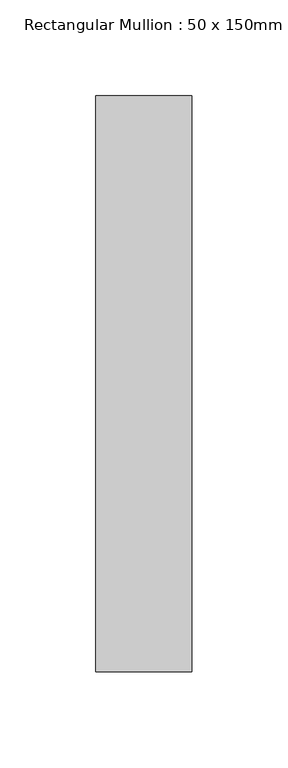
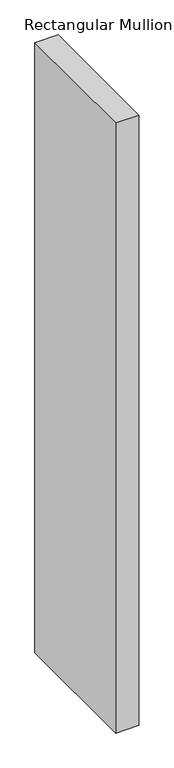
"""IFC4 building model written with IfcOpenShell, lengths in millimetres: member geometry, Rectangular Mullion : 50 x 150mm."""

from ifc_helpers import new_model, si_unit, frame, origin, place, context, project, spatial, polyline, outline, extrude, source, transform, mapped, element, save


def rectangular_mullion_50_x_150mm_15c94c80(model_context):
    return source(origin(), model_context, "Body", "SweptSolid", [
        extrude(outline(polyline([(0.0, 175.0), (0.0, -125.0), (-50.0, -125.0), (-50.0, 175.0), (0.0, 175.0)])), frame((0.0, 0.0, -1386.0217088), z_axis=(0.0, 0.0, 1.0), x_axis=(1.0, 0.0, 0.0)), (0.0, 0.0, 1.0), 1386.0217088),
    ])


if __name__ == "__main__":
    model = new_model("IFC4")
    model_context = context("Model", 3, world=origin())
    ifc_project = project(units=[si_unit("LENGTHUNIT", "METRE", prefix="MILLI")], contexts=[model_context])
    site = spatial("IfcSite", under=ifc_project)
    building = spatial("IfcBuilding", under=site)
    placement = place(None, origin())
    rectangular_mullion_50_x_150mm_shape = rectangular_mullion_50_x_150mm_15c94c80(model_context)
    element("IfcMember", 1, ObjectType="Rectangular Mullion : 50 x 150mm", at=placement, inside=building, context=model_context, shape_type="MappedRepresentation", body=[
        mapped(rectangular_mullion_50_x_150mm_shape, transform((0.0, 0.0, 0.0), x_axis=(1.0, 0.0, 0.0), y_axis=(0.0, 1.0, 0.0), z_axis=(0.0, 0.0, 1.0))),
    ])
    save(model, "model.ifc")
